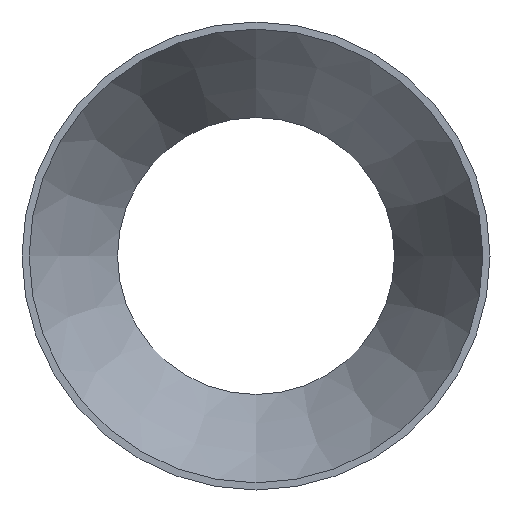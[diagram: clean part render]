
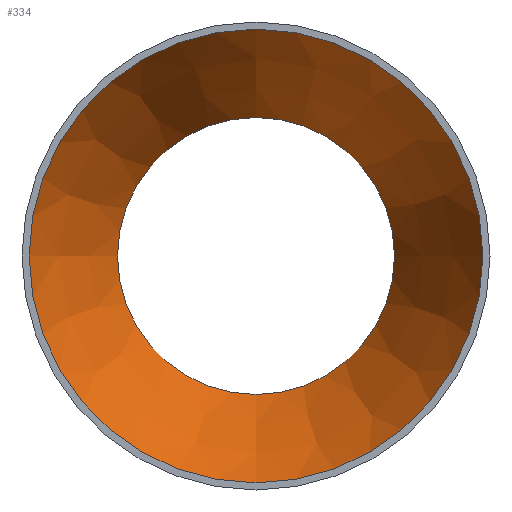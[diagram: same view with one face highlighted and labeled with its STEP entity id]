
A CAD part, left-side view. The second image highlights one B-rep face of the part: STEP entity #334.
In plain terms, the highlighted conical face has half-angle 26.011 degrees and reference radius 106.553 mm.
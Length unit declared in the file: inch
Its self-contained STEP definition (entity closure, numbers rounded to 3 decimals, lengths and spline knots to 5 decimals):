
#66=FACE_OUTER_BOUND('',#82,.T.);
#82=EDGE_LOOP('',(#235,#236,#237,#238,#239,#240));
#104=LINE('',#580,#114);
#114=VECTOR('',#447,4.195);
#127=CIRCLE('',#375,3.18);
#128=CIRCLE('',#376,5.21);
#129=CIRCLE('',#377,5.21);
#130=CIRCLE('',#378,3.18);
#159=VERTEX_POINT('',#576);
#160=VERTEX_POINT('',#577);
#161=VERTEX_POINT('',#579);
#162=VERTEX_POINT('',#581);
#192=EDGE_CURVE('',#159,#160,#127,.T.);
#193=EDGE_CURVE('',#160,#161,#104,.T.);
#194=EDGE_CURVE('',#162,#161,#128,.T.);
#195=EDGE_CURVE('',#161,#162,#129,.T.);
#196=EDGE_CURVE('',#160,#159,#130,.T.);
#235=ORIENTED_EDGE('',*,*,#192,.T.);
#236=ORIENTED_EDGE('',*,*,#193,.T.);
#237=ORIENTED_EDGE('',*,*,#194,.F.);
#238=ORIENTED_EDGE('',*,*,#195,.F.);
#239=ORIENTED_EDGE('',*,*,#193,.F.);
#240=ORIENTED_EDGE('',*,*,#196,.T.);
#314=CONICAL_SURFACE('',#374,4.195,0.454);
#334=ADVANCED_FACE('',(#66),#314,.F.);
#374=AXIS2_PLACEMENT_3D('',#575,#443,#444);
#375=AXIS2_PLACEMENT_3D('',#578,#445,#446);
#376=AXIS2_PLACEMENT_3D('',#582,#448,#449);
#377=AXIS2_PLACEMENT_3D('',#583,#450,#451);
#378=AXIS2_PLACEMENT_3D('',#584,#452,#453);
#443=DIRECTION('center_axis',(-1.,0.,0.));
#444=DIRECTION('ref_axis',(0.,1.,0.));
#445=DIRECTION('center_axis',(1.,0.,0.));
#446=DIRECTION('ref_axis',(0.,1.,0.));
#447=DIRECTION('',(-0.899,-0.439,0.));
#448=DIRECTION('center_axis',(1.,0.,0.));
#449=DIRECTION('ref_axis',(0.,1.,0.));
#450=DIRECTION('center_axis',(1.,0.,0.));
#451=DIRECTION('ref_axis',(0.,1.,0.));
#452=DIRECTION('center_axis',(1.,0.,0.));
#453=DIRECTION('ref_axis',(0.,1.,0.));
#575=CARTESIAN_POINT('Origin',(3.66,0.,0.));
#576=CARTESIAN_POINT('',(5.74,3.18,0.));
#577=CARTESIAN_POINT('',(5.74,-3.18,0.));
#578=CARTESIAN_POINT('Origin',(5.74,0.,0.));
#579=CARTESIAN_POINT('',(1.58,-5.21,0.));
#580=CARTESIAN_POINT('',(3.66,-4.195,0.));
#581=CARTESIAN_POINT('',(1.58,5.21,0.));
#582=CARTESIAN_POINT('Origin',(1.58,0.,0.));
#583=CARTESIAN_POINT('Origin',(1.58,0.,0.));
#584=CARTESIAN_POINT('Origin',(5.74,0.,0.));
